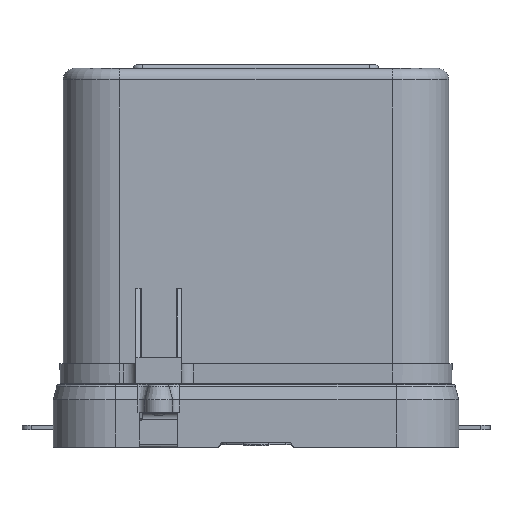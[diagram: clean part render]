
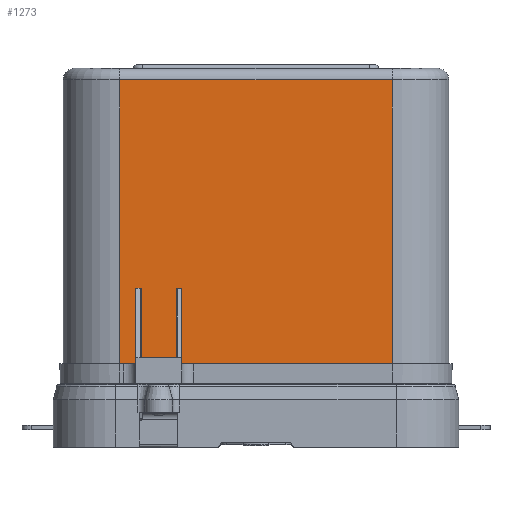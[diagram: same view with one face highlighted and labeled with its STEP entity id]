
A CAD part, front view. The second image highlights one B-rep face of the part: STEP entity #1273.
In plain terms, the highlighted planar face has unit normal (0, -1, 0).
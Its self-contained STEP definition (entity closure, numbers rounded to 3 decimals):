
#1273=ADVANCED_FACE('',(#21038),#21040,.F.);
#21038=FACE_BOUND('',#21039,.T.);
#21039=EDGE_LOOP('',(#39167,#39168,#39169,#39170,#39171,#39172,#39173,#39174,#39175,
#39176,#39177,#39178));
#21040=PLANE('',#21041);
#21041=AXIS2_PLACEMENT_3D('',#21042,#21043,#21044);
#21042=CARTESIAN_POINT('',(28.75,4.25,165.));
#21043=DIRECTION('',(0.,1.,0.));
#21044=DIRECTION('',(0.,-0.,1.));
#39167=ORIENTED_EDGE('',*,*,#49387,.F.);
#39168=ORIENTED_EDGE('',*,*,#49542,.T.);
#39169=ORIENTED_EDGE('',*,*,#49543,.T.);
#39170=ORIENTED_EDGE('',*,*,#49544,.T.);
#39171=ORIENTED_EDGE('',*,*,#49545,.F.);
#39172=ORIENTED_EDGE('',*,*,#49546,.F.);
#39173=ORIENTED_EDGE('',*,*,#49547,.T.);
#39174=ORIENTED_EDGE('',*,*,#49548,.T.);
#39175=ORIENTED_EDGE('',*,*,#49549,.F.);
#39176=ORIENTED_EDGE('',*,*,#49550,.F.);
#39177=ORIENTED_EDGE('',*,*,#49551,.T.);
#39178=ORIENTED_EDGE('',*,*,#49552,.T.);
#49387=EDGE_CURVE('',#54898,#54900,#54901,.T.);
#49542=EDGE_CURVE('',#54898,#55158,#55160,.T.);
#49543=EDGE_CURVE('',#55158,#55161,#55162,.T.);
#49544=EDGE_CURVE('',#55161,#55163,#55164,.T.);
#49545=EDGE_CURVE('',#55165,#55163,#55166,.T.);
#49546=EDGE_CURVE('',#55167,#55165,#55168,.T.);
#49547=EDGE_CURVE('',#55167,#55169,#55170,.T.);
#49548=EDGE_CURVE('',#55169,#55171,#55172,.T.);
#49549=EDGE_CURVE('',#55173,#55171,#55174,.T.);
#49550=EDGE_CURVE('',#55175,#55173,#55176,.T.);
#49551=EDGE_CURVE('',#55175,#55177,#55178,.T.);
#49552=EDGE_CURVE('',#55177,#54900,#55179,.T.);
#54898=VERTEX_POINT('',#64684);
#54900=VERTEX_POINT('',#64689);
#54901=LINE('',#64690,#64691);
#55158=VERTEX_POINT('',#65711);
#55160=LINE('',#65716,#65717);
#55161=VERTEX_POINT('',#65719);
#55162=LINE('',#65720,#65721);
#55163=VERTEX_POINT('',#65723);
#55164=LINE('',#65724,#65725);
#55165=VERTEX_POINT('',#65727);
#55166=LINE('',#65728,#65729);
#55167=VERTEX_POINT('',#65731);
#55168=LINE('',#65732,#65733);
#55169=VERTEX_POINT('',#65735);
#55170=LINE('',#65736,#65737);
#55171=VERTEX_POINT('',#65739);
#55172=LINE('',#65740,#65741);
#55173=VERTEX_POINT('',#65743);
#55174=LINE('',#65744,#65745);
#55175=VERTEX_POINT('',#65747);
#55176=LINE('',#65748,#65749);
#55177=VERTEX_POINT('',#65751);
#55178=LINE('',#65752,#65753);
#55179=LINE('',#65755,#65756);
#64684=CARTESIAN_POINT('',(53.,4.25,38.5));
#64689=CARTESIAN_POINT('',(38.,4.25,38.5));
#64690=CARTESIAN_POINT('',(53.,4.25,38.5));
#64691=VECTOR('',#64692,1.);
#64692=DIRECTION('',(-1.,0.,0.));
#65711=CARTESIAN_POINT('',(53.,4.25,68.5));
#65716=CARTESIAN_POINT('',(53.,4.25,38.5));
#65717=VECTOR('',#65718,1.);
#65718=DIRECTION('',(0.,0.,1.));
#65719=CARTESIAN_POINT('',(55.5,4.25,68.5));
#65720=CARTESIAN_POINT('',(53.,4.25,68.5));
#65721=VECTOR('',#65722,1.);
#65722=DIRECTION('',(1.,0.,0.));
#65723=CARTESIAN_POINT('',(55.5,4.25,36.));
#65724=CARTESIAN_POINT('',(55.5,4.25,68.5));
#65725=VECTOR('',#65726,1.);
#65726=DIRECTION('',(0.,0.,-1.));
#65727=CARTESIAN_POINT('',(146.25,4.25,36.));
#65728=CARTESIAN_POINT('',(146.25,4.25,36.));
#65729=VECTOR('',#65730,1.);
#65730=DIRECTION('',(-1.,0.,0.));
#65731=CARTESIAN_POINT('',(146.25,4.25,158.5));
#65732=CARTESIAN_POINT('',(146.25,4.25,158.5));
#65733=VECTOR('',#65734,1.);
#65734=DIRECTION('',(0.,0.,-1.));
#65735=CARTESIAN_POINT('',(28.75,4.25,158.5));
#65736=CARTESIAN_POINT('',(146.25,4.25,158.5));
#65737=VECTOR('',#65738,1.);
#65738=DIRECTION('',(-1.,0.,0.));
#65739=CARTESIAN_POINT('',(28.75,4.25,36.));
#65740=CARTESIAN_POINT('',(28.75,4.25,158.5));
#65741=VECTOR('',#65742,1.);
#65742=DIRECTION('',(0.,0.,-1.));
#65743=CARTESIAN_POINT('',(35.5,4.25,36.));
#65744=CARTESIAN_POINT('',(35.5,4.25,36.));
#65745=VECTOR('',#65746,1.);
#65746=DIRECTION('',(-1.,0.,0.));
#65747=CARTESIAN_POINT('',(35.5,4.25,68.5));
#65748=CARTESIAN_POINT('',(35.5,4.25,68.5));
#65749=VECTOR('',#65750,1.);
#65750=DIRECTION('',(0.,0.,-1.));
#65751=CARTESIAN_POINT('',(38.,4.25,68.5));
#65752=CARTESIAN_POINT('',(35.5,4.25,68.5));
#65753=VECTOR('',#65754,1.);
#65754=DIRECTION('',(1.,0.,0.));
#65755=CARTESIAN_POINT('',(38.,4.25,68.5));
#65756=VECTOR('',#65757,1.);
#65757=DIRECTION('',(0.,0.,-1.));
